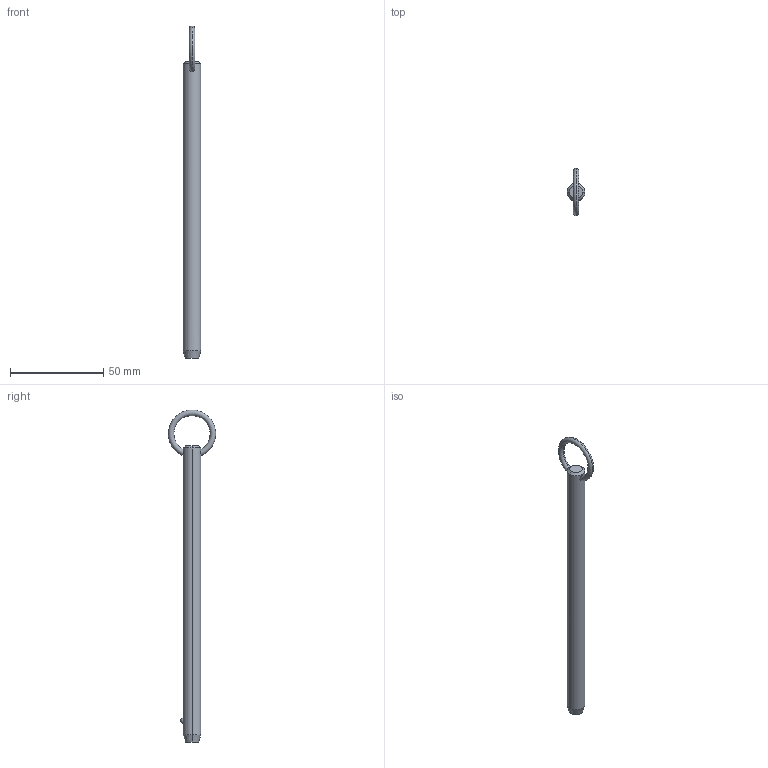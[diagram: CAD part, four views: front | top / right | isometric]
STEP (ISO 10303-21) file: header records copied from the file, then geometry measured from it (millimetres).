
FILE_DESCRIPTION (( 'STEP AP203' ), '1' );
FILE_NAME ('P1250.037-550.step', '2019-07-29T20:13:42', ( '' ), ( '' ), 'SwSTEP 2.0', 'SolidWorks 2017', '' );
FILE_SCHEMA (( 'CONFIG_CONTROL_DESIGN' ));
Length unit declared in the file: millimetre
Products named in the file (1): P1250.037-550
Bounding box: 9.52 x 25.39 x 177.8 mm (x, y, z)
Volume: 11651.1 mm3; surface area: 5390.1 mm2
Topology: 1 solids, 1 shells, 12 faces, 28 edges, 17 vertices
Faces by surface type: cone 4, torus 2, sphere 2, cylinder 2, plane 2
Entity records: 523 total; most frequent: CARTESIAN_POINT 190, DIRECTION 56, ORIENTED_EDGE 48, AXIS2_PLACEMENT_3D 25, EDGE_CURVE 24, VERTEX_POINT 15, EDGE_LOOP 15, ADVANCED_FACE 12
